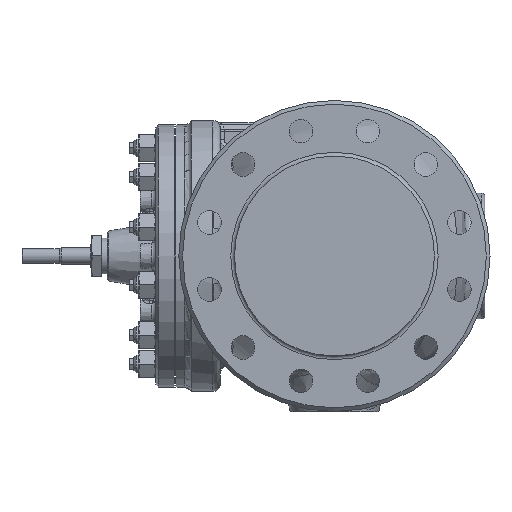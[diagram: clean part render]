
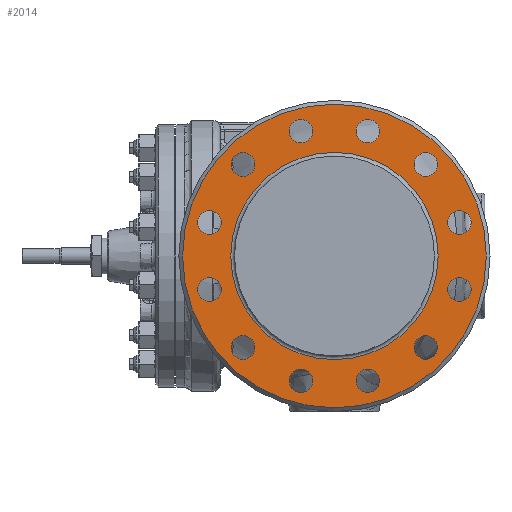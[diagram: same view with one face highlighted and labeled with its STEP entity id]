
A CAD part, left-side view. The second image highlights one B-rep face of the part: STEP entity #2014.
In plain terms, the highlighted planar face has unit normal (-1, 0, 0).
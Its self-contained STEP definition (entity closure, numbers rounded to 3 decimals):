
#190=PLANE('',#12694);
#2014=ADVANCED_FACE('',(#3910,#3911,#3912,#3913,#3914,#3915,#3916,#3917,
#3918,#3919,#3920,#3921,#3922,#3923),#190,.T.);
#3910=FACE_BOUND('',#4482,.T.);
#3911=FACE_BOUND('',#4483,.T.);
#3912=FACE_BOUND('',#4484,.T.);
#3913=FACE_BOUND('',#4485,.T.);
#3914=FACE_BOUND('',#4486,.T.);
#3915=FACE_BOUND('',#4487,.T.);
#3916=FACE_BOUND('',#4488,.T.);
#3917=FACE_BOUND('',#4489,.T.);
#3918=FACE_BOUND('',#4490,.T.);
#3919=FACE_BOUND('',#4491,.T.);
#3920=FACE_BOUND('',#4492,.T.);
#3921=FACE_BOUND('',#4493,.T.);
#3922=FACE_BOUND('',#4494,.T.);
#3923=FACE_BOUND('',#4495,.T.);
#4482=EDGE_LOOP('',(#5754));
#4483=EDGE_LOOP('',(#5755));
#4484=EDGE_LOOP('',(#5756));
#4485=EDGE_LOOP('',(#5757));
#4486=EDGE_LOOP('',(#5758));
#4487=EDGE_LOOP('',(#5759));
#4488=EDGE_LOOP('',(#5760));
#4489=EDGE_LOOP('',(#5761));
#4490=EDGE_LOOP('',(#5762));
#4491=EDGE_LOOP('',(#5763));
#4492=EDGE_LOOP('',(#5764));
#4493=EDGE_LOOP('',(#5765));
#4494=EDGE_LOOP('',(#5766));
#4495=EDGE_LOOP('',(#5767));
#5754=ORIENTED_EDGE('',*,*,#10315,.T.);
#5755=ORIENTED_EDGE('',*,*,#10316,.T.);
#5756=ORIENTED_EDGE('',*,*,#10317,.T.);
#5757=ORIENTED_EDGE('',*,*,#10318,.T.);
#5758=ORIENTED_EDGE('',*,*,#10319,.T.);
#5759=ORIENTED_EDGE('',*,*,#10320,.T.);
#5760=ORIENTED_EDGE('',*,*,#10321,.T.);
#5761=ORIENTED_EDGE('',*,*,#10322,.T.);
#5762=ORIENTED_EDGE('',*,*,#10323,.T.);
#5763=ORIENTED_EDGE('',*,*,#10324,.T.);
#5764=ORIENTED_EDGE('',*,*,#10325,.T.);
#5765=ORIENTED_EDGE('',*,*,#10326,.T.);
#5766=ORIENTED_EDGE('',*,*,#10327,.T.);
#5767=ORIENTED_EDGE('',*,*,#10328,.T.);
#9200=VERTEX_POINT('',#18758);
#9201=VERTEX_POINT('',#18760);
#9202=VERTEX_POINT('',#18762);
#9203=VERTEX_POINT('',#18764);
#9204=VERTEX_POINT('',#18766);
#9205=VERTEX_POINT('',#18768);
#9206=VERTEX_POINT('',#18770);
#9207=VERTEX_POINT('',#18772);
#9208=VERTEX_POINT('',#18774);
#9209=VERTEX_POINT('',#18776);
#9210=VERTEX_POINT('',#18778);
#9211=VERTEX_POINT('',#18780);
#9212=VERTEX_POINT('',#18782);
#9213=VERTEX_POINT('',#18784);
#10315=EDGE_CURVE('',#9200,#9200,#11974,.T.);
#10316=EDGE_CURVE('',#9201,#9201,#11975,.T.);
#10317=EDGE_CURVE('',#9202,#9202,#11976,.T.);
#10318=EDGE_CURVE('',#9203,#9203,#11977,.T.);
#10319=EDGE_CURVE('',#9204,#9204,#11978,.T.);
#10320=EDGE_CURVE('',#9205,#9205,#11979,.T.);
#10321=EDGE_CURVE('',#9206,#9206,#11980,.T.);
#10322=EDGE_CURVE('',#9207,#9207,#11981,.T.);
#10323=EDGE_CURVE('',#9208,#9208,#11982,.T.);
#10324=EDGE_CURVE('',#9209,#9209,#11983,.T.);
#10325=EDGE_CURVE('',#9210,#9210,#11984,.T.);
#10326=EDGE_CURVE('',#9211,#9211,#11985,.T.);
#10327=EDGE_CURVE('',#9212,#9212,#11986,.T.);
#10328=EDGE_CURVE('',#9213,#9213,#11987,.T.);
#11974=CIRCLE('',#12680,205.);
#11975=CIRCLE('',#12681,15.9);
#11976=CIRCLE('',#12682,15.9);
#11977=CIRCLE('',#12683,15.9);
#11978=CIRCLE('',#12684,15.9);
#11979=CIRCLE('',#12685,15.9);
#11980=CIRCLE('',#12686,15.9);
#11981=CIRCLE('',#12687,15.9);
#11982=CIRCLE('',#12688,15.9);
#11983=CIRCLE('',#12689,15.9);
#11984=CIRCLE('',#12690,15.9);
#11985=CIRCLE('',#12691,15.9);
#11986=CIRCLE('',#12692,15.9);
#11987=CIRCLE('',#12693,139.95);
#12680=AXIS2_PLACEMENT_3D('',#18757,#14165,#14166);
#12681=AXIS2_PLACEMENT_3D('',#18759,#14167,#14168);
#12682=AXIS2_PLACEMENT_3D('',#18761,#14169,#14170);
#12683=AXIS2_PLACEMENT_3D('',#18763,#14171,#14172);
#12684=AXIS2_PLACEMENT_3D('',#18765,#14173,#14174);
#12685=AXIS2_PLACEMENT_3D('',#18767,#14175,#14176);
#12686=AXIS2_PLACEMENT_3D('',#18769,#14177,#14178);
#12687=AXIS2_PLACEMENT_3D('',#18771,#14179,#14180);
#12688=AXIS2_PLACEMENT_3D('',#18773,#14181,#14182);
#12689=AXIS2_PLACEMENT_3D('',#18775,#14183,#14184);
#12690=AXIS2_PLACEMENT_3D('',#18777,#14185,#14186);
#12691=AXIS2_PLACEMENT_3D('',#18779,#14187,#14188);
#12692=AXIS2_PLACEMENT_3D('',#18781,#14189,#14190);
#12693=AXIS2_PLACEMENT_3D('',#18783,#14191,#14192);
#12694=AXIS2_PLACEMENT_3D('',#18785,#14193,#14194);
#14165=DIRECTION('',(-1.,0.,0.));
#14166=DIRECTION('',(0.,0.,1.));
#14167=DIRECTION('',(1.,0.,0.));
#14168=DIRECTION('',(0.,-0.5,-0.866));
#14169=DIRECTION('',(1.,0.,0.));
#14170=DIRECTION('',(0.,-0.866,-0.5));
#14171=DIRECTION('',(1.,0.,0.));
#14172=DIRECTION('',(0.,-1.,0.));
#14173=DIRECTION('',(1.,0.,0.));
#14174=DIRECTION('',(0.,-0.866,0.5));
#14175=DIRECTION('',(1.,0.,0.));
#14176=DIRECTION('',(0.,-0.5,0.866));
#14177=DIRECTION('',(1.,0.,0.));
#14178=DIRECTION('',(0.,0.,1.));
#14179=DIRECTION('',(1.,0.,0.));
#14180=DIRECTION('',(0.,0.5,0.866));
#14181=DIRECTION('',(1.,0.,0.));
#14182=DIRECTION('',(0.,0.866,0.5));
#14183=DIRECTION('',(1.,0.,0.));
#14184=DIRECTION('',(0.,1.,0.));
#14185=DIRECTION('',(1.,0.,0.));
#14186=DIRECTION('',(0.,0.866,-0.5));
#14187=DIRECTION('',(1.,0.,0.));
#14188=DIRECTION('',(0.,0.5,-0.866));
#14189=DIRECTION('',(1.,0.,0.));
#14190=DIRECTION('',(0.,0.,-1.));
#14191=DIRECTION('',(1.,0.,0.));
#14192=DIRECTION('',(0.,0.,1.));
#14193=DIRECTION('',(-1.,0.,0.));
#14194=DIRECTION('',(0.,0.,1.));
#18757=CARTESIAN_POINT('',(-298.,0.,0.));
#18758=CARTESIAN_POINT('',(-298.,0.,205.));
#18759=CARTESIAN_POINT('',(-298.,123.461,-123.461));
#18760=CARTESIAN_POINT('',(-298.,115.511,-137.231));
#18761=CARTESIAN_POINT('',(-298.,45.19,-168.651));
#18762=CARTESIAN_POINT('',(-298.,31.42,-176.601));
#18763=CARTESIAN_POINT('',(-298.,-45.19,-168.651));
#18764=CARTESIAN_POINT('',(-298.,-61.09,-168.651));
#18765=CARTESIAN_POINT('',(-298.,-123.461,-123.461));
#18766=CARTESIAN_POINT('',(-298.,-137.231,-115.511));
#18767=CARTESIAN_POINT('',(-298.,-168.651,-45.19));
#18768=CARTESIAN_POINT('',(-298.,-176.601,-31.42));
#18769=CARTESIAN_POINT('',(-298.,-168.651,45.19));
#18770=CARTESIAN_POINT('',(-298.,-168.651,61.09));
#18771=CARTESIAN_POINT('',(-298.,-123.461,123.461));
#18772=CARTESIAN_POINT('',(-298.,-115.511,137.231));
#18773=CARTESIAN_POINT('',(-298.,-45.19,168.651));
#18774=CARTESIAN_POINT('',(-298.,-31.42,176.601));
#18775=CARTESIAN_POINT('',(-298.,45.19,168.651));
#18776=CARTESIAN_POINT('',(-298.,61.09,168.651));
#18777=CARTESIAN_POINT('',(-298.,123.461,123.461));
#18778=CARTESIAN_POINT('',(-298.,137.231,115.511));
#18779=CARTESIAN_POINT('',(-298.,168.651,45.19));
#18780=CARTESIAN_POINT('',(-298.,176.601,31.42));
#18781=CARTESIAN_POINT('',(-298.,168.651,-45.19));
#18782=CARTESIAN_POINT('',(-298.,168.651,-61.09));
#18783=CARTESIAN_POINT('',(-298.,0.,0.));
#18784=CARTESIAN_POINT('',(-298.,0.,139.95));
#18785=CARTESIAN_POINT('',(-298.,134.95,0.));
